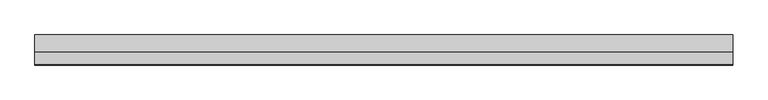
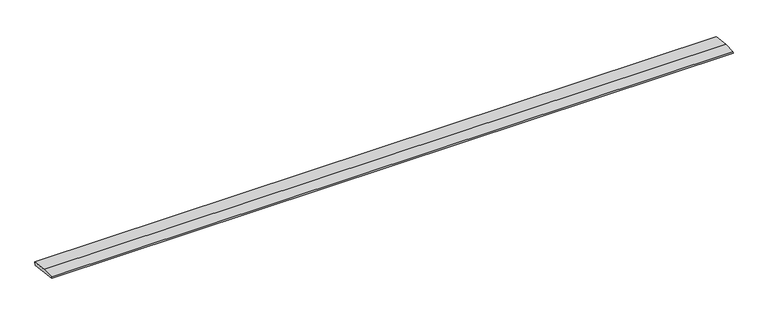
"""IFC4 building model written with IfcOpenShell, lengths in millimetres: beam geometry, weatherboad : weatherboad."""

import ifcopenshell
import ifcopenshell.guid

model = None  # the IFC model being written
_history = None  # IfcOwnerHistory: only IFC2X3 demands one
_inside = {}  # id of a spatial element -> (the spatial element, [elements in it])
_under = {}  # id of a project, library or spatial element -> (it, [spatial elements below it])
_declared = {}  # id of a project -> (the project, [libraries it declares])
_typed = {}  # id of a type object -> (the type object, [elements of that type])
_made_of = {}  # id of a material, layer set ... -> (it, [elements and type objects made of it])


def new_model(schema):
    """Start an empty IFC model of exactly this schema.

    Asked for "IFC4X3", IfcOpenShell would pick the latest addendum, in which some entities
    have other attributes; the version numbers below select the first issue.
    IFC2X3 requires an IfcOwnerHistory on every rooted entity: one is made here for all.
    """
    global model, _history
    if schema == "IFC4X3":
        model = ifcopenshell.file(schema_version=(4, 3, 0, 0))
    else:
        model = ifcopenshell.file(schema=schema)
    _inside.clear()
    _under.clear()
    _declared.clear()
    _typed.clear()
    _made_of.clear()
    _history = None
    if model.schema == "IFC2X3":
        org = make("IfcOrganization", Name="unknown")
        user = make(
            "IfcPersonAndOrganization",
            ThePerson=make("IfcPerson", FamilyName="unknown"),
            TheOrganization=org,
        )
        app = make(
            "IfcApplication",
            ApplicationDeveloper=org,
            Version="unknown",
            ApplicationFullName="unknown",
            ApplicationIdentifier="unknown",
        )
        _history = make(
            "IfcOwnerHistory",
            OwningUser=user,
            OwningApplication=app,
            ChangeAction="ADDED",
            CreationDate=0,
        )
    return model


def make(cls, **values):
    """One entity of the class cls with the attributes given. An attribute that is None is left unset."""
    return model.create_entity(
        cls, **{name: value for name, value in values.items() if value is not None}
    )


def rooted(cls, **values):
    """An entity with a GlobalId (a new one), such as an element, a storey or a relation."""
    return make(cls, GlobalId=ifcopenshell.guid.new(), OwnerHistory=_history, **values)


def si_unit(unit_type, name, prefix=None):
    """IfcSIUnit, for example si_unit("LENGTHUNIT", "METRE", prefix="MILLI")."""
    return make("IfcSIUnit", UnitType=unit_type, Prefix=prefix, Name=name)


def assignment(units):
    """IfcUnitAssignment: the units of a project."""
    return None if units is None else make("IfcUnitAssignment", Units=units)


def point(xyz):
    """IfcCartesianPoint."""
    return None if xyz is None else make("IfcCartesianPoint", Coordinates=xyz)


def direction(xyz):
    """IfcDirection."""
    return None if xyz is None else make("IfcDirection", DirectionRatios=xyz)


def frame(location, z_axis=None, x_axis=None):
    """IfcAxis2Placement3D, a coordinate frame: its origin and axes. An axis left out is left unset."""
    return make(
        "IfcAxis2Placement3D",
        Location=point(location),
        Axis=direction(z_axis),
        RefDirection=direction(x_axis),
    )


def origin():
    """The frame at (0, 0, 0) with its axes left unset."""
    return frame((0.0, 0.0, 0.0))


def place(relative_to, where):
    """IfcLocalPlacement: puts the frame where relative to a parent placement (None: the world)."""
    return make(
        "IfcLocalPlacement", PlacementRelTo=relative_to, RelativePlacement=where
    )


def context(
    kind, dimensions, precision=None, world=None, true_north=None, identifier=None
):
    """IfcGeometricRepresentationContext, for example the 3D "Model" context."""
    return make(
        "IfcGeometricRepresentationContext",
        ContextIdentifier=identifier,
        ContextType=kind,
        CoordinateSpaceDimension=dimensions,
        Precision=precision,
        WorldCoordinateSystem=world,
        TrueNorth=true_north,
    )


def project(units=None, contexts=None):
    """IfcProject with its units and contexts."""
    return rooted(
        "IfcProject",
        Name="project",
        RepresentationContexts=contexts,
        UnitsInContext=assignment(units),
    )


def spatial(cls, under=None, at=None, **own):
    """A site, building, storey or space (cls), placed at a placement, below another one or the project."""
    s = rooted(cls, ObjectPlacement=at, **own)
    if under is not None:
        _under.setdefault(under.id(), (under, []))[1].append(s)
    return s


def polyline(points):
    """IfcPolyline through the points."""
    return make("IfcPolyline", Points=[point(p) for p in points])


def outline(outer, holes=None, kind="AREA"):
    """IfcArbitraryClosedProfileDef: a profile drawn as a closed curve; with holes, ...WithVoids."""
    if holes is None:
        return make("IfcArbitraryClosedProfileDef", ProfileType=kind, OuterCurve=outer)
    return make(
        "IfcArbitraryProfileDefWithVoids",
        ProfileType=kind,
        OuterCurve=outer,
        InnerCurves=holes,
    )


def extrude(swept, where, along, depth):
    """IfcExtrudedAreaSolid: the profile swept, set in the frame where, extruded along a direction by depth."""
    return make(
        "IfcExtrudedAreaSolid",
        SweptArea=swept,
        Position=where,
        ExtrudedDirection=direction(along),
        Depth=depth,
    )


def shape(context_of_items, identifier, shape_type, items):
    """IfcShapeRepresentation: the items that make up one representation, for example the "Body"."""
    return make(
        "IfcShapeRepresentation",
        ContextOfItems=context_of_items,
        RepresentationIdentifier=identifier,
        RepresentationType=shape_type,
        Items=items,
    )


def source(mapping_origin, context_of_items, identifier, shape_type, items):
    """IfcRepresentationMap: a shape defined once, which mapped items show again and again."""
    return make(
        "IfcRepresentationMap",
        MappingOrigin=mapping_origin,
        MappedRepresentation=shape(context_of_items, identifier, shape_type, items),
    )


def transform(
    local_origin,
    x_axis=None,
    y_axis=None,
    z_axis=None,
    scale=None,
    scale2=None,
    scale3=None,
    uniform=True,
):
    """IfcCartesianTransformationOperator3D, or its non-uniform kind. x_axis, y_axis, z_axis: its Axis1, 2, 3."""
    if uniform:
        return make(
            "IfcCartesianTransformationOperator3D",
            Axis1=direction(x_axis),
            Axis2=direction(y_axis),
            LocalOrigin=point(local_origin),
            Scale=scale,
            Axis3=direction(z_axis),
        )
    return make(
        "IfcCartesianTransformationOperator3DnonUniform",
        Axis1=direction(x_axis),
        Axis2=direction(y_axis),
        LocalOrigin=point(local_origin),
        Scale=scale,
        Axis3=direction(z_axis),
        Scale2=scale2,
        Scale3=scale3,
    )


def mapped(mapping_source, mapping_target):
    """IfcMappedItem: shows the shape of a source again, moved by a transform."""
    return make(
        "IfcMappedItem", MappingSource=mapping_source, MappingTarget=mapping_target
    )


def made_of(thing, what):
    """Note that an element or type object is made of a material, layer set ...; save() writes the relation."""
    if what is not None:
        _made_of.setdefault(what.id(), (what, []))[1].append(thing)
    return thing


def element(
    cls,
    number,
    at=None,
    inside=None,
    cuts=None,
    type_object=None,
    material=None,
    context=None,
    identifier="Body",
    shape_type=None,
    held_by="IfcProductDefinitionShape",
    body=None,
    shapes=None,
    **own,
):
    """One element of the class cls, such as IfcWall. Its Tag is "e" and its number.

    at: its placement. inside: the storey or other place that contains it. cuts: it is an
    opening in that element (IfcRelVoidsElement). A single representation is given by context,
    identifier, shape_type and body (its items); several are given by shapes. held_by: the class
    of the entity that holds the representations. save() writes the other relations.
    """
    e = rooted(cls, Tag="e%d" % number, ObjectPlacement=at, **own)
    if body is not None:
        shapes = [shape(context, identifier, shape_type, body)]
    if shapes is not None:
        e.Representation = make(held_by, Representations=shapes)
    if inside is not None:
        _inside.setdefault(inside.id(), (inside, []))[1].append(e)
    if cuts is not None:
        rooted(
            "IfcRelVoidsElement", RelatingBuildingElement=cuts, RelatedOpeningElement=e
        )
    if type_object is not None:
        _typed.setdefault(type_object.id(), (type_object, []))[1].append(e)
    return made_of(e, material)


def aggregate(whole, parts):
    """IfcRelAggregates: a whole, such as a stair, and the parts it consists of."""
    return rooted("IfcRelAggregates", RelatingObject=whole, RelatedObjects=parts)


def save(model, path):
    """Write the relations noted so far, then the file.

    IfcRelAggregates (storeys below a building ...), IfcRelContainedInSpatialStructure (elements
    in a storey), IfcRelDefinesByType, IfcRelAssociatesMaterial and IfcRelDeclares: one each for
    every whole, place, type object, material and project.
    """
    for whole, parts in _under.values():
        aggregate(whole, parts)
    for where, things in _inside.values():
        rooted(
            "IfcRelContainedInSpatialStructure",
            RelatedElements=things,
            RelatingStructure=where,
        )
    for kind, things in _typed.values():
        rooted("IfcRelDefinesByType", RelatedObjects=things, RelatingType=kind)
    for what, things in _made_of.values():
        rooted("IfcRelAssociatesMaterial", RelatedObjects=things, RelatingMaterial=what)
    for by, libraries in _declared.values():
        rooted("IfcRelDeclares", RelatingContext=by, RelatedDefinitions=libraries)
    model.write(path)


def beam_07ff9b1a(model_context):
    return source(origin(), model_context, "Body", "SweptSolid", [
        extrude(outline(polyline([(0.0, -9.143159), (1.1226388, 0.0), (79.0749747, 0.0), (180.9387048, -12.5072934), (178.6231873, -31.3656703), (0.0, -9.143159)])), frame((-2095.0, 0.0, 0.0), z_axis=(1.0, 0.0, 0.0), x_axis=(0.0, 1.0, 0.0)), (0.0, 0.0, 1.0), 4190.0),
    ])


if __name__ == "__main__":
    model = new_model("IFC4")
    model_context = context("Model", 3, world=origin())
    ifc_project = project(units=[si_unit("LENGTHUNIT", "METRE", prefix="MILLI")], contexts=[model_context])
    site = spatial("IfcSite", under=ifc_project)
    building = spatial("IfcBuilding", under=site)
    placement = place(None, origin())
    beam_shape = beam_07ff9b1a(model_context)
    element("IfcBeam", 1, ObjectType="weatherboad : weatherboad", at=placement, inside=building, context=model_context, shape_type="MappedRepresentation", body=[
        mapped(beam_shape, transform((0.0, 0.0, 0.0), x_axis=(1.0, 0.0, 0.0), y_axis=(0.0, 1.0, 0.0), z_axis=(0.0, 0.0, 1.0))),
    ])
    save(model, "model.ifc")
